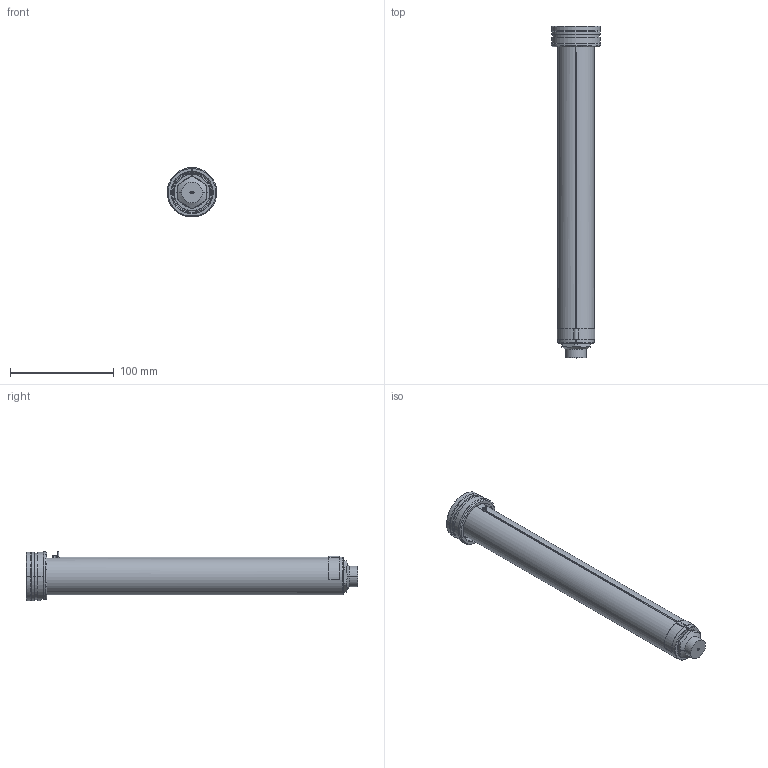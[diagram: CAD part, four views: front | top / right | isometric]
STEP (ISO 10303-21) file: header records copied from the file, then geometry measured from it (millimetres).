
FILE_DESCRIPTION((''),'2;1');
FILE_NAME('EO16_PG-FB_WR_300_SW','2024-02-19T11:44:48',('sundharh'),(''),'CREO PARAMETRIC BY PTC INC, 2023154','CREO PARAMETRIC BY PTC INC, 2023154','');
FILE_SCHEMA(('CONFIG_CONTROL_DESIGN'));
Length unit declared in the file: millimetre
Products named in the file (1): EO16_PG-FB_WR_300_SW
Bounding box: 47.97 x 320 x 48 mm (x, y, z)
Volume: 260232.1 mm3; surface area: 62041.3 mm2
Topology: 1 solids, 1 shells, 205 faces, 538 edges, 331 vertices
Faces by surface type: cylinder 81, plane 59, cone 41, torus 14, bspline 7, sphere 3
Entity records: 7603 total; most frequent: CARTESIAN_POINT 2453, DIRECTION 1139, ORIENTED_EDGE 1060, EDGE_CURVE 530, AXIS2_PLACEMENT_3D 475, VERTEX_POINT 331, CIRCLE 277, EDGE_LOOP 223
